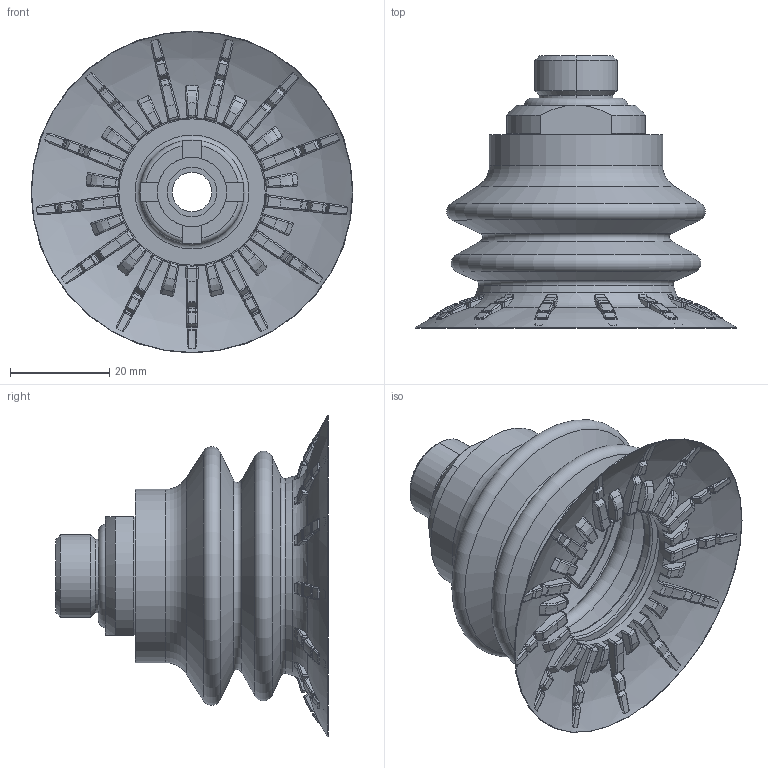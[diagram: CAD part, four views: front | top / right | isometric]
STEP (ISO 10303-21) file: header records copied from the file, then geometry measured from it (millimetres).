
FILE_DESCRIPTION (( 'STEP AP214' ), '1' );
FILE_NAME ('MB65P-3060T-G38MS.STEP', '2026-05-27T13:57:57', ( '' ), ( '' ), 'SwSTEP 2.0', 'SolidWorks 2025', '' );
FILE_SCHEMA (( 'AUTOMOTIVE_DESIGN' ));
Length unit declared in the file: inch
Products named in the file (3): 403.011; MB65P-3060T-G38MS; MB65P-3060T
Assembly tree (2 placements, depth 2):
  MB65P-3060T-G38MS
    403.011
    MB65P-3060T
Bounding box: 65 x 55 x 65 mm (x, y, z)
Volume: 27614.1 mm3; surface area: 25123.3 mm2
Topology: 3 solids, 3 shells, 2012 faces, 4727 edges, 2731 vertices
Faces by surface type: bspline 812, plane 304, cylinder 270, torus 253, sphere 236, cone 137
Full cylindrical faces by diameter (mm): 10.5 x1, 12.5 x1, 14 x1, 21 x1, 30 x1, 31 x1, 35 x1, 36 x1
Entity records: 71824 total; most frequent: CARTESIAN_POINT 32536, ORIENTED_EDGE 9294, DIRECTION 6796, EDGE_CURVE 4647, AXIS2_PLACEMENT_3D 3139, VERTEX_POINT 2718, B_SPLINE_CURVE_WITH_KNOTS 2143, EDGE_LOOP 2093
